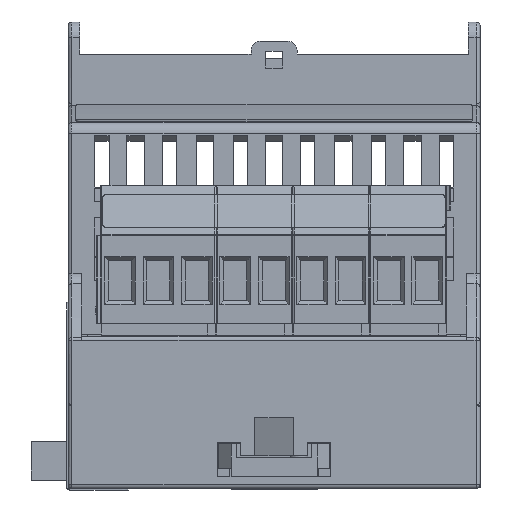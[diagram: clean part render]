
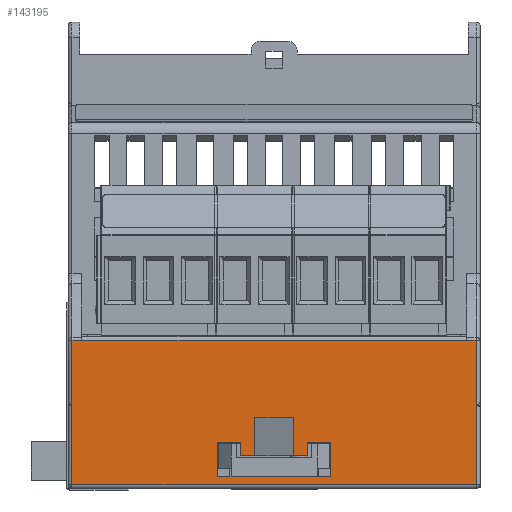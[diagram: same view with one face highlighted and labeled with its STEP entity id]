
A CAD part, front view. The second image highlights one B-rep face of the part: STEP entity #143195.
In plain terms, the highlighted planar face has unit normal (0, -1, 0).
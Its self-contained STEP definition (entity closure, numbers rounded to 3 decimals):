
#1661=FACE_BOUND('',#16219,.T.);
#8468=FACE_OUTER_BOUND('',#16218,.T.);
#16218=EDGE_LOOP('',(#105903,#105904,#105905,#105906,#105907,#105908,#105909,
#105910,#105911,#105912));
#16219=EDGE_LOOP('',(#105913,#105914,#105915,#105916,#105917,#105918,#105919,
#105920,#105921,#105922,#105923,#105924,#105925,#105926));
#24593=LINE('',#204025,#41538);
#24597=LINE('',#204057,#41542);
#24599=LINE('',#204115,#41544);
#24845=LINE('',#205046,#41790);
#25893=LINE('',#207316,#42838);
#27951=LINE('',#218323,#44896);
#28044=LINE('',#218509,#44989);
#28045=LINE('',#218512,#44990);
#28093=LINE('',#218613,#45038);
#28094=LINE('',#218615,#45039);
#28095=LINE('',#218617,#45040);
#28096=LINE('',#218618,#45041);
#28097=LINE('',#218619,#45042);
#28098=LINE('',#218621,#45043);
#28099=LINE('',#218623,#45044);
#28100=LINE('',#218625,#45045);
#28101=LINE('',#218627,#45046);
#28102=LINE('',#218629,#45047);
#28103=LINE('',#218631,#45048);
#28104=LINE('',#218633,#45049);
#28105=LINE('',#218635,#45050);
#28106=LINE('',#218637,#45051);
#28107=LINE('',#218639,#45052);
#28108=LINE('',#218640,#45053);
#41538=VECTOR('',#166265,1.);
#41542=VECTOR('',#166301,1.);
#41544=VECTOR('',#166307,1.);
#41790=VECTOR('',#166933,1.);
#42838=VECTOR('',#168929,1.);
#44896=VECTOR('',#174557,1.);
#44989=VECTOR('',#174724,1.);
#44990=VECTOR('',#174727,1.);
#45038=VECTOR('',#174803,1.);
#45039=VECTOR('',#174804,1.);
#45040=VECTOR('',#174805,1.);
#45041=VECTOR('',#174806,1.);
#45042=VECTOR('',#174807,1.);
#45043=VECTOR('',#174808,1.);
#45044=VECTOR('',#174809,1.);
#45045=VECTOR('',#174810,1.);
#45046=VECTOR('',#174811,1.);
#45047=VECTOR('',#174812,1.);
#45048=VECTOR('',#174813,1.);
#45049=VECTOR('',#174814,1.);
#45050=VECTOR('',#174815,1.);
#45051=VECTOR('',#174816,1.);
#45052=VECTOR('',#174817,1.);
#45053=VECTOR('',#174818,1.);
#57143=VERTEX_POINT('',#202409);
#57733=VERTEX_POINT('',#204019);
#57735=VERTEX_POINT('',#204023);
#57746=VERTEX_POINT('',#204054);
#57747=VERTEX_POINT('',#204056);
#57749=VERTEX_POINT('',#204062);
#58646=VERTEX_POINT('',#207315);
#60469=VERTEX_POINT('',#218321);
#60470=VERTEX_POINT('',#218322);
#60526=VERTEX_POINT('',#218507);
#60527=VERTEX_POINT('',#218511);
#60566=VERTEX_POINT('',#218612);
#60567=VERTEX_POINT('',#218614);
#60568=VERTEX_POINT('',#218616);
#60569=VERTEX_POINT('',#218620);
#60570=VERTEX_POINT('',#218622);
#60571=VERTEX_POINT('',#218624);
#60572=VERTEX_POINT('',#218626);
#60573=VERTEX_POINT('',#218628);
#60574=VERTEX_POINT('',#218630);
#60575=VERTEX_POINT('',#218632);
#60576=VERTEX_POINT('',#218634);
#60577=VERTEX_POINT('',#218636);
#60578=VERTEX_POINT('',#218638);
#72352=EDGE_CURVE('',#57735,#57733,#24593,.T.);
#72367=EDGE_CURVE('',#57746,#57747,#24597,.T.);
#72371=EDGE_CURVE('',#57746,#57749,#24599,.T.);
#72699=EDGE_CURVE('',#57733,#57143,#24845,.T.);
#73816=EDGE_CURVE('',#58646,#57747,#25893,.T.);
#76730=EDGE_CURVE('',#60469,#60470,#27951,.T.);
#76826=EDGE_CURVE('',#60526,#60469,#28044,.T.);
#76827=EDGE_CURVE('',#60470,#60527,#28045,.T.);
#76877=EDGE_CURVE('',#60566,#58646,#28093,.T.);
#76878=EDGE_CURVE('',#60567,#57749,#28094,.T.);
#76879=EDGE_CURVE('',#60567,#60568,#28095,.T.);
#76880=EDGE_CURVE('',#57143,#60568,#28096,.T.);
#76881=EDGE_CURVE('',#57735,#60566,#28097,.T.);
#76882=EDGE_CURVE('',#60526,#60569,#28098,.T.);
#76883=EDGE_CURVE('',#60570,#60569,#28099,.T.);
#76884=EDGE_CURVE('',#60570,#60571,#28100,.T.);
#76885=EDGE_CURVE('',#60572,#60571,#28101,.T.);
#76886=EDGE_CURVE('',#60572,#60573,#28102,.T.);
#76887=EDGE_CURVE('',#60574,#60573,#28103,.T.);
#76888=EDGE_CURVE('',#60574,#60575,#28104,.T.);
#76889=EDGE_CURVE('',#60576,#60575,#28105,.T.);
#76890=EDGE_CURVE('',#60576,#60577,#28106,.T.);
#76891=EDGE_CURVE('',#60577,#60578,#28107,.T.);
#76892=EDGE_CURVE('',#60578,#60527,#28108,.T.);
#105903=ORIENTED_EDGE('',*,*,#76877,.T.);
#105904=ORIENTED_EDGE('',*,*,#73816,.T.);
#105905=ORIENTED_EDGE('',*,*,#72367,.F.);
#105906=ORIENTED_EDGE('',*,*,#72371,.T.);
#105907=ORIENTED_EDGE('',*,*,#76878,.F.);
#105908=ORIENTED_EDGE('',*,*,#76879,.T.);
#105909=ORIENTED_EDGE('',*,*,#76880,.F.);
#105910=ORIENTED_EDGE('',*,*,#72699,.F.);
#105911=ORIENTED_EDGE('',*,*,#72352,.F.);
#105912=ORIENTED_EDGE('',*,*,#76881,.T.);
#105913=ORIENTED_EDGE('',*,*,#76826,.F.);
#105914=ORIENTED_EDGE('',*,*,#76882,.T.);
#105915=ORIENTED_EDGE('',*,*,#76883,.F.);
#105916=ORIENTED_EDGE('',*,*,#76884,.T.);
#105917=ORIENTED_EDGE('',*,*,#76885,.F.);
#105918=ORIENTED_EDGE('',*,*,#76886,.T.);
#105919=ORIENTED_EDGE('',*,*,#76887,.F.);
#105920=ORIENTED_EDGE('',*,*,#76888,.T.);
#105921=ORIENTED_EDGE('',*,*,#76889,.F.);
#105922=ORIENTED_EDGE('',*,*,#76890,.T.);
#105923=ORIENTED_EDGE('',*,*,#76891,.T.);
#105924=ORIENTED_EDGE('',*,*,#76892,.T.);
#105925=ORIENTED_EDGE('',*,*,#76827,.F.);
#105926=ORIENTED_EDGE('',*,*,#76730,.F.);
#129392=PLANE('',#152107);
#143195=ADVANCED_FACE('',(#8468,#1661),#129392,.F.);
#152107=AXIS2_PLACEMENT_3D('',#218611,#174801,#174802);
#166265=DIRECTION('',(1.,0.,0.));
#166301=DIRECTION('',(1.,0.,0.));
#166307=DIRECTION('',(0.,0.,-1.));
#166933=DIRECTION('',(0.,0.,-1.));
#168929=DIRECTION('',(0.,0.,-1.));
#174557=DIRECTION('',(1.,0.,0.));
#174724=DIRECTION('',(1.,0.,0.));
#174727=DIRECTION('',(1.,0.,0.));
#174801=DIRECTION('center_axis',(0.,1.,0.));
#174802=DIRECTION('ref_axis',(0.,0.,1.));
#174803=DIRECTION('',(-1.,0.,0.));
#174804=DIRECTION('',(0.,0.,1.));
#174805=DIRECTION('',(1.,0.,0.));
#174806=DIRECTION('',(0.,0.,-1.));
#174807=DIRECTION('',(0.,0.,1.));
#174808=DIRECTION('',(0.,0.,1.));
#174809=DIRECTION('',(-1.,0.,0.));
#174810=DIRECTION('',(0.,0.,-1.));
#174811=DIRECTION('',(-1.,0.,0.));
#174812=DIRECTION('',(0.,0.,1.));
#174813=DIRECTION('',(-1.,0.,0.));
#174814=DIRECTION('',(0.,0.,-1.));
#174815=DIRECTION('',(-1.,0.,0.));
#174816=DIRECTION('',(0.,0.,1.));
#174817=DIRECTION('',(1.,0.,0.));
#174818=DIRECTION('',(0.,0.,-1.));
#202409=CARTESIAN_POINT('',(26.3,-44.6,4.919));
#204019=CARTESIAN_POINT('',(26.3,-44.6,13.26));
#204023=CARTESIAN_POINT('',(25.,-44.6,13.26));
#204025=CARTESIAN_POINT('',(-12.408,-44.6,13.26));
#204054=CARTESIAN_POINT('',(-26.3,-44.6,13.26));
#204056=CARTESIAN_POINT('',(-25.,-44.6,13.26));
#204057=CARTESIAN_POINT('',(-26.3,-44.6,13.26));
#204062=CARTESIAN_POINT('',(-26.3,-44.6,4.919));
#204115=CARTESIAN_POINT('',(-26.3,-44.6,-2.3));
#205046=CARTESIAN_POINT('',(26.3,-44.6,-2.3));
#207315=CARTESIAN_POINT('',(-25.,-44.6,13.3));
#207316=CARTESIAN_POINT('',(-25.,-44.6,10.));
#218321=CARTESIAN_POINT('',(-5.6,-44.6,-4.5));
#218322=CARTESIAN_POINT('',(5.6,-44.6,-4.5));
#218323=CARTESIAN_POINT('',(-0.533,-44.6,-4.5));
#218507=CARTESIAN_POINT('',(-7.4,-44.6,-4.5));
#218509=CARTESIAN_POINT('',(-0.533,-44.6,-4.5));
#218511=CARTESIAN_POINT('',(7.4,-44.6,-4.5));
#218512=CARTESIAN_POINT('',(-0.533,-44.6,-4.5));
#218611=CARTESIAN_POINT('Origin',(0.772,-44.6,-2.492));
#218612=CARTESIAN_POINT('',(25.,-44.6,13.3));
#218613=CARTESIAN_POINT('',(17.467,-44.6,13.3));
#218614=CARTESIAN_POINT('',(-26.3,-44.6,-5.5));
#218615=CARTESIAN_POINT('',(-26.3,-44.6,10.));
#218616=CARTESIAN_POINT('',(26.3,-44.6,-5.5));
#218617=CARTESIAN_POINT('',(10.672,-44.6,-5.5));
#218618=CARTESIAN_POINT('',(26.3,-44.6,2.512));
#218619=CARTESIAN_POINT('',(25.,-44.6,10.));
#218620=CARTESIAN_POINT('',(-7.4,-44.6,0.));
#218621=CARTESIAN_POINT('',(-7.4,-44.6,10.));
#218622=CARTESIAN_POINT('',(-4.4,-44.6,0.));
#218623=CARTESIAN_POINT('',(-0.533,-44.6,0.));
#218624=CARTESIAN_POINT('',(-4.4,-44.6,-1.75));
#218625=CARTESIAN_POINT('',(-4.4,-44.6,10.));
#218626=CARTESIAN_POINT('',(-2.5,-44.6,-1.75));
#218627=CARTESIAN_POINT('',(-0.533,-44.6,-1.75));
#218628=CARTESIAN_POINT('',(-2.5,-44.6,3.195));
#218629=CARTESIAN_POINT('',(-2.5,-44.6,10.));
#218630=CARTESIAN_POINT('',(2.5,-44.6,3.195));
#218631=CARTESIAN_POINT('',(-0.533,-44.6,3.195));
#218632=CARTESIAN_POINT('',(2.5,-44.6,-1.75));
#218633=CARTESIAN_POINT('',(2.5,-44.6,10.));
#218634=CARTESIAN_POINT('',(4.4,-44.6,-1.75));
#218635=CARTESIAN_POINT('',(-0.533,-44.6,-1.75));
#218636=CARTESIAN_POINT('',(4.4,-44.6,0.));
#218637=CARTESIAN_POINT('',(4.4,-44.6,10.));
#218638=CARTESIAN_POINT('',(7.4,-44.6,0.));
#218639=CARTESIAN_POINT('',(-0.533,-44.6,0.));
#218640=CARTESIAN_POINT('',(7.4,-44.6,10.));
